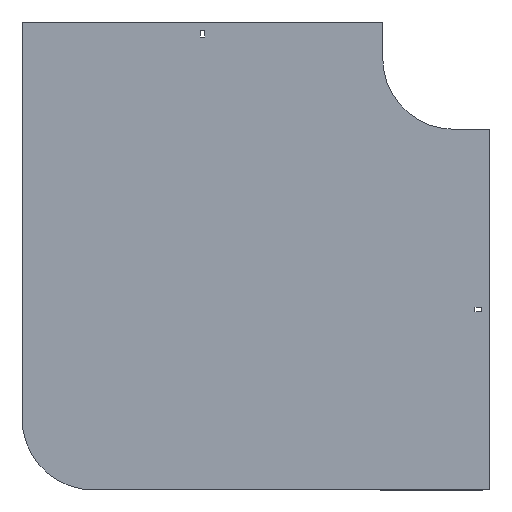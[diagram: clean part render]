
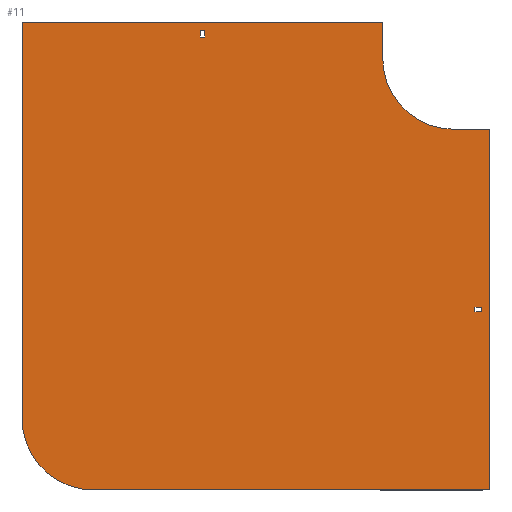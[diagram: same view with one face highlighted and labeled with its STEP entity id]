
A CAD part, front view. The second image highlights one B-rep face of the part: STEP entity #11.
In plain terms, the highlighted planar face has unit normal (0, -1, 0).
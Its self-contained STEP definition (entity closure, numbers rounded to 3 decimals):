
#11 = ADVANCED_FACE ( 'NONE', ( #1294, #1595, #250 ), #848, .T. ) ;
#40 = VECTOR ( 'NONE', #724, 1000. ) ;
#57 = LINE ( 'NONE', #635, #1459 ) ;
#79 = VECTOR ( 'NONE', #1657, 1000. ) ;
#111 = EDGE_CURVE ( 'NONE', #267, #1433, #1803, .T. ) ;
#132 = LINE ( 'NONE', #1928, #40 ) ;
#140 = EDGE_CURVE ( 'NONE', #1506, #267, #282, .T. ) ;
#162 = VECTOR ( 'NONE', #1841, 1000. ) ;
#166 = EDGE_CURVE ( 'NONE', #602, #264, #1571, .T. ) ;
#175 = ORIENTED_EDGE ( 'NONE', *, *, #1003, .F. ) ;
#181 = CARTESIAN_POINT ( 'NONE',  ( 38., 0., -348.75 ) ) ;
#189 = EDGE_LOOP ( 'NONE', ( #1488, #259, #1445, #713 ) ) ;
#214 = DIRECTION ( 'NONE',  ( 0., 0., 1. ) ) ;
#218 = EDGE_CURVE ( 'NONE', #801, #925, #885, .T. ) ;
#221 = VERTEX_POINT ( 'NONE', #1823 ) ;
#244 = CARTESIAN_POINT ( 'NONE',  ( 0., 0., 0. ) ) ;
#250 = FACE_BOUND ( 'NONE', #252, .T. ) ;
#252 = EDGE_LOOP ( 'NONE', ( #1769, #1923, #1275, #590 ) ) ;
#259 = ORIENTED_EDGE ( 'NONE', *, *, #1061, .T. ) ;
#264 = VERTEX_POINT ( 'NONE', #1214 ) ;
#266 = CARTESIAN_POINT ( 'NONE',  ( 50., 0., -100. ) ) ;
#267 = VERTEX_POINT ( 'NONE', #473 ) ;
#282 = LINE ( 'NONE', #1318, #453 ) ;
#285 = CARTESIAN_POINT ( 'NONE',  ( -355.25, 0., 29. ) ) ;
#307 = EDGE_CURVE ( 'NONE', #925, #1315, #389, .T. ) ;
#322 = CARTESIAN_POINT ( 'NONE',  ( -355.25, 0., 38. ) ) ;
#336 = DIRECTION ( 'NONE',  ( 0., 0., -1. ) ) ;
#357 = VECTOR ( 'NONE', #1194, 1000. ) ;
#389 = LINE ( 'NONE', #1603, #1226 ) ;
#443 = CARTESIAN_POINT ( 'NONE',  ( 38., 0., -355.25 ) ) ;
#453 = VECTOR ( 'NONE', #727, 1000. ) ;
#461 = CARTESIAN_POINT ( 'NONE',  ( -504., 0., -604. ) ) ;
#472 = CARTESIAN_POINT ( 'NONE',  ( 50., 0., -100. ) ) ;
#473 = CARTESIAN_POINT ( 'NONE',  ( -100., 0., 50. ) ) ;
#489 = AXIS2_PLACEMENT_3D ( 'NONE', #244, #856, #1624 ) ;
#527 = DIRECTION ( 'NONE',  ( 0., 0., -1. ) ) ;
#530 = CARTESIAN_POINT ( 'NONE',  ( -100., 0., 0. ) ) ;
#548 = CARTESIAN_POINT ( 'NONE',  ( 38., 0., -355.25 ) ) ;
#550 = DIRECTION ( 'NONE',  ( 1., 0., 0. ) ) ;
#558 = DIRECTION ( 'NONE',  ( -1., 0., 0. ) ) ;
#562 = LINE ( 'NONE', #1165, #1714 ) ;
#565 = VECTOR ( 'NONE', #336, 1000. ) ;
#590 = ORIENTED_EDGE ( 'NONE', *, *, #1369, .F. ) ;
#594 = CARTESIAN_POINT ( 'NONE',  ( -504., 0., -504. ) ) ;
#602 = VERTEX_POINT ( 'NONE', #461 ) ;
#624 = EDGE_CURVE ( 'NONE', #1206, #1646, #1534, .T. ) ;
#625 = CARTESIAN_POINT ( 'NONE',  ( 29., 0., -355.25 ) ) ;
#635 = CARTESIAN_POINT ( 'NONE',  ( -604., 0., -504. ) ) ;
#666 = EDGE_LOOP ( 'NONE', ( #1285, #1556, #1758, #738, #1073, #175, #1720, #1639 ) ) ;
#698 = LINE ( 'NONE', #1907, #1426 ) ;
#707 = AXIS2_PLACEMENT_3D ( 'NONE', #594, #1817, #948 ) ;
#712 = CARTESIAN_POINT ( 'NONE',  ( 0., 0., 0. ) ) ;
#713 = ORIENTED_EDGE ( 'NONE', *, *, #624, .T. ) ;
#724 = DIRECTION ( 'NONE',  ( 1., 0., 0. ) ) ;
#727 = DIRECTION ( 'NONE',  ( 1., 0., 0. ) ) ;
#738 = ORIENTED_EDGE ( 'NONE', *, *, #1366, .F. ) ;
#801 = VERTEX_POINT ( 'NONE', #949 ) ;
#843 = LINE ( 'NONE', #1450, #1566 ) ;
#848 = PLANE ( 'NONE',  #489 ) ;
#856 = DIRECTION ( 'NONE',  ( 0., -1., 0. ) ) ;
#881 = LINE ( 'NONE', #322, #357 ) ;
#883 = VERTEX_POINT ( 'NONE', #1591 ) ;
#885 = LINE ( 'NONE', #625, #565 ) ;
#890 = CARTESIAN_POINT ( 'NONE',  ( -348.75, 0., 38. ) ) ;
#925 = VERTEX_POINT ( 'NONE', #1100 ) ;
#948 = DIRECTION ( 'NONE',  ( 0., 0., 1. ) ) ;
#949 = CARTESIAN_POINT ( 'NONE',  ( 29., 0., -348.75 ) ) ;
#989 = EDGE_CURVE ( 'NONE', #1665, #1206, #562, .T. ) ;
#1003 = EDGE_CURVE ( 'NONE', #883, #1812, #132, .T. ) ;
#1033 = CIRCLE ( 'NONE', #1102, 100. ) ;
#1061 = EDGE_CURVE ( 'NONE', #221, #1665, #881, .T. ) ;
#1073 = ORIENTED_EDGE ( 'NONE', *, *, #1261, .F. ) ;
#1100 = CARTESIAN_POINT ( 'NONE',  ( 29., 0., -355.25 ) ) ;
#1102 = AXIS2_PLACEMENT_3D ( 'NONE', #712, #1434, #1466 ) ;
#1154 = VERTEX_POINT ( 'NONE', #1376 ) ;
#1157 = EDGE_CURVE ( 'NONE', #264, #1506, #57, .T. ) ;
#1165 = CARTESIAN_POINT ( 'NONE',  ( -348.75, 0., 29. ) ) ;
#1185 = LINE ( 'NONE', #443, #79 ) ;
#1194 = DIRECTION ( 'NONE',  ( 1., 0., 0. ) ) ;
#1206 = VERTEX_POINT ( 'NONE', #1218 ) ;
#1214 = CARTESIAN_POINT ( 'NONE',  ( -604., 0., -504. ) ) ;
#1218 = CARTESIAN_POINT ( 'NONE',  ( -348.75, 0., 29. ) ) ;
#1226 = VECTOR ( 'NONE', #550, 1000. ) ;
#1261 = EDGE_CURVE ( 'NONE', #1812, #1154, #1359, .T. ) ;
#1275 = ORIENTED_EDGE ( 'NONE', *, *, #218, .F. ) ;
#1283 = VERTEX_POINT ( 'NONE', #181 ) ;
#1285 = ORIENTED_EDGE ( 'NONE', *, *, #140, .F. ) ;
#1294 = FACE_BOUND ( 'NONE', #189, .T. ) ;
#1307 = VECTOR ( 'NONE', #1927, 1000. ) ;
#1315 = VERTEX_POINT ( 'NONE', #548 ) ;
#1318 = CARTESIAN_POINT ( 'NONE',  ( -604., 0., 50. ) ) ;
#1342 = LINE ( 'NONE', #1490, #1390 ) ;
#1359 = LINE ( 'NONE', #472, #1616 ) ;
#1366 = EDGE_CURVE ( 'NONE', #1154, #602, #843, .T. ) ;
#1369 = EDGE_CURVE ( 'NONE', #1283, #801, #698, .T. ) ;
#1376 = CARTESIAN_POINT ( 'NONE',  ( 50., 0., -604. ) ) ;
#1390 = VECTOR ( 'NONE', #1469, 1000. ) ;
#1426 = VECTOR ( 'NONE', #558, 1000. ) ;
#1433 = VERTEX_POINT ( 'NONE', #530 ) ;
#1434 = DIRECTION ( 'NONE',  ( 0., -1., 0. ) ) ;
#1445 = ORIENTED_EDGE ( 'NONE', *, *, #989, .T. ) ;
#1450 = CARTESIAN_POINT ( 'NONE',  ( 50., 0., -604. ) ) ;
#1459 = VECTOR ( 'NONE', #214, 1000. ) ;
#1466 = DIRECTION ( 'NONE',  ( 0., 0., -1. ) ) ;
#1469 = DIRECTION ( 'NONE',  ( 0., 0., 1. ) ) ;
#1475 = CARTESIAN_POINT ( 'NONE',  ( -100., 0., 50. ) ) ;
#1488 = ORIENTED_EDGE ( 'NONE', *, *, #1836, .T. ) ;
#1490 = CARTESIAN_POINT ( 'NONE',  ( -355.25, 0., 29. ) ) ;
#1506 = VERTEX_POINT ( 'NONE', #1864 ) ;
#1534 = LINE ( 'NONE', #1693, #162 ) ;
#1556 = ORIENTED_EDGE ( 'NONE', *, *, #1157, .F. ) ;
#1566 = VECTOR ( 'NONE', #1609, 1000. ) ;
#1571 = CIRCLE ( 'NONE', #707, 100. ) ;
#1591 = CARTESIAN_POINT ( 'NONE',  ( 0., 0., -100. ) ) ;
#1595 = FACE_OUTER_BOUND ( 'NONE', #666, .T. ) ;
#1603 = CARTESIAN_POINT ( 'NONE',  ( 29., 0., -355.25 ) ) ;
#1609 = DIRECTION ( 'NONE',  ( -1., 0., 0. ) ) ;
#1616 = VECTOR ( 'NONE', #527, 1000. ) ;
#1624 = DIRECTION ( 'NONE',  ( 0., 0., -1. ) ) ;
#1629 = DIRECTION ( 'NONE',  ( 0., 0., -1. ) ) ;
#1639 = ORIENTED_EDGE ( 'NONE', *, *, #111, .F. ) ;
#1646 = VERTEX_POINT ( 'NONE', #285 ) ;
#1652 = EDGE_CURVE ( 'NONE', #1315, #1283, #1185, .T. ) ;
#1657 = DIRECTION ( 'NONE',  ( 0., 0., 1. ) ) ;
#1665 = VERTEX_POINT ( 'NONE', #890 ) ;
#1693 = CARTESIAN_POINT ( 'NONE',  ( -355.25, 0., 29. ) ) ;
#1714 = VECTOR ( 'NONE', #1629, 1000. ) ;
#1720 = ORIENTED_EDGE ( 'NONE', *, *, #1740, .F. ) ;
#1740 = EDGE_CURVE ( 'NONE', #1433, #883, #1033, .T. ) ;
#1758 = ORIENTED_EDGE ( 'NONE', *, *, #166, .F. ) ;
#1769 = ORIENTED_EDGE ( 'NONE', *, *, #1652, .F. ) ;
#1803 = LINE ( 'NONE', #1475, #1307 ) ;
#1812 = VERTEX_POINT ( 'NONE', #266 ) ;
#1817 = DIRECTION ( 'NONE',  ( 0., 1., 0. ) ) ;
#1823 = CARTESIAN_POINT ( 'NONE',  ( -355.25, 0., 38. ) ) ;
#1836 = EDGE_CURVE ( 'NONE', #1646, #221, #1342, .T. ) ;
#1841 = DIRECTION ( 'NONE',  ( -1., 0., 0. ) ) ;
#1864 = CARTESIAN_POINT ( 'NONE',  ( -604., 0., 50. ) ) ;
#1907 = CARTESIAN_POINT ( 'NONE',  ( 29., 0., -348.75 ) ) ;
#1923 = ORIENTED_EDGE ( 'NONE', *, *, #307, .F. ) ;
#1927 = DIRECTION ( 'NONE',  ( 0., 0., -1. ) ) ;
#1928 = CARTESIAN_POINT ( 'NONE',  ( 0., 0., -100. ) ) ;
